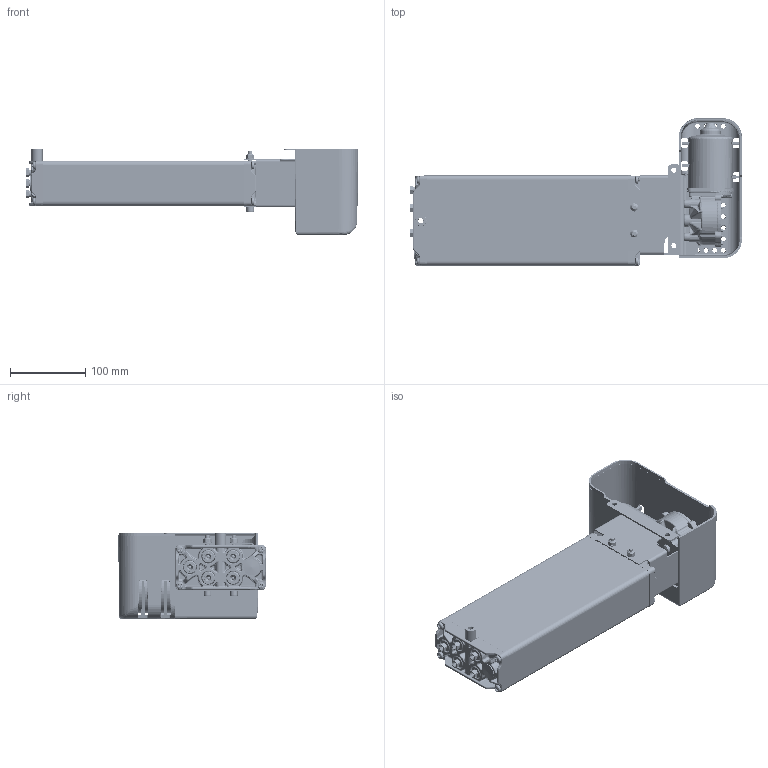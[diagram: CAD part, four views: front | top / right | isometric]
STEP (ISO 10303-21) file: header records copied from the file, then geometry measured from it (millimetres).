
FILE_DESCRIPTION(/* description */ ('Unknown'),/* implementation_level */ '2;1');
FILE_NAME(/* name */ '3X2.20031 Pumpe PB 5815 W mit Antrieb',/* time_stamp */ '2016-10-21T15:47:22+02:00',/* author */ ('Unknown'),/* organization */ ('Unknown'),/* preprocessor_version */ 'ST-DEVELOPER v16.7',/* originating_system */ 'DEX',/* authorisation */ $);
FILE_SCHEMA (('AUTOMOTIVE_DESIGN {1 0 10303 214 3 1 1}'));
Products named in the file (32): 102.20031; 115.00031; 125.00045; 115.00008; 142.00021; 125.00021; 142.00013; 142.00110; 125.00141; 115.00140; 126.00006; 122.00040; 119.00041; 126.00005; 127.00201; 127.00200; 127.00023; 124.00090; Getriebe; Ring; Schraube; Stator; Abdeckplatte; Antriebswelle; 128.00051; 123.00031; 142.00018; 142.00019; 142.00025; 142.00131; 123.00029; 142.00057
Assembly tree (47 placements, depth 3):
  102.20031
    115.00031  x5
      125.00045
      115.00008
      142.00021
      125.00021
    142.00013  x8
    142.00110
    125.00141
    115.00140
      126.00006
      122.00040
    119.00041
    126.00005
    127.00201
      127.00200
      127.00023
    124.00090
      Getriebe
      Ring
      Schraube
      Stator
      Abdeckplatte
      Antriebswelle
    128.00051
    123.00031
    142.00018  x2
    142.00019  x2
    142.00025  x2
    142.00131  x3
    123.00029
    142.00057
Bounding box: 441.42 x 196.04 x 115.45 mm (x, y, z)
Volume: 932017.9 mm3; surface area: 578267.6 mm2
Topology: 50 solids, 52 shells, 4823 faces, 12215 edges, 7404 vertices
Faces by surface type: bspline 1367, plane 1316, cylinder 1269, cone 501, torus 270, sphere 100
Full cylindrical faces by diameter (mm): 2.5 x4, 3.2 x4, 3.5 x5, 3.9 x5, 4.1 x5, 4.2 x7, 4.4 x5, 4.5 x1, 4.917 x2, 5 x8, 5.5 x5, 6 x6, 6.4 x2, 6.8 x5, 6.917 x10, 7 x1, 8 x12, 8.5 x6, 9 x2, 9.5 x1, 9.8 x8, 10 x8, 10.3 x1, 10.32 x1, 10.4 x1, 11 x5, 14 x2, 14.4 x5, 15 x1, 15.8 x1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
Entity records: 202798 total; most frequent: CARTESIAN_POINT 105896, ORIENTED_EDGE 19232, DIRECTION 14247, EDGE_CURVE 9616, VERTEX_POINT 6197, AXIS2_PLACEMENT_3D 5612, FACE_BOUND 4605, EDGE_LOOP 4600
